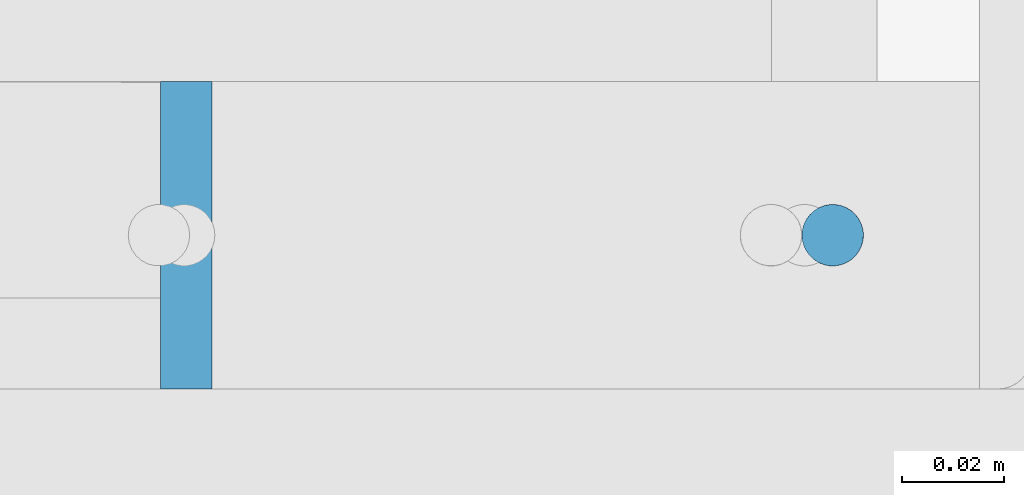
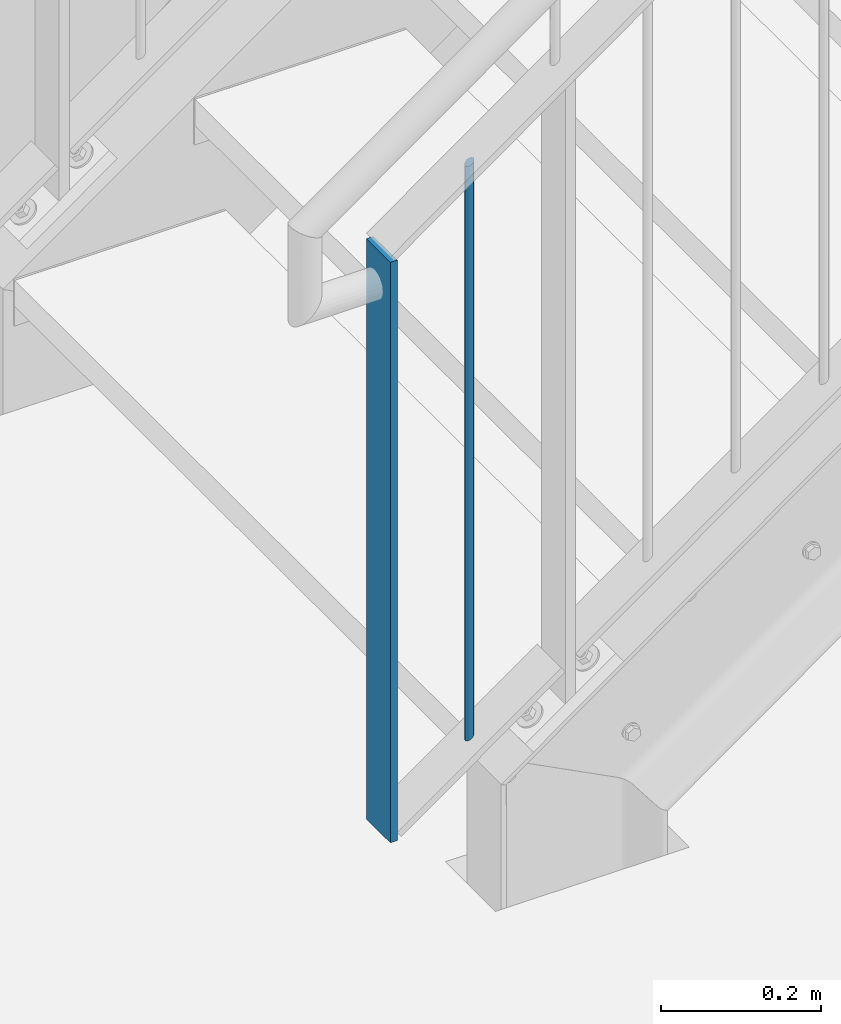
# One storey, part 21 of 831: 2 columns.
"""IFC2X3 building model written with IfcOpenShell, lengths in millimetres."""

from ifc_helpers import new_model, entity, si_unit, converted_unit, frame, origin, origin_with_axes, origin_2d, place, context, project, spatial, rectangle, circle, extrude, clip, halfspace, material, element, save


model = new_model("IFC2X3")

# Units and contexts
model_context = context("Model", 3, precision=1e-09, world=origin_with_axes())
ifc_project = project(units=[si_unit("LENGTHUNIT", "METRE", prefix="MILLI"), si_unit("AREAUNIT", "SQUARE_METRE"), si_unit("VOLUMEUNIT", "CUBIC_METRE"), converted_unit("PLANEANGLEUNIT", "DEGREE", entity("IfcPlaneAngleMeasure", 0.01745329), si_unit("PLANEANGLEUNIT", "RADIAN"), dimensions=[0, 0, 0, 0, 0, 0, 0])], contexts=[model_context])

# Site, building, storey
site_placement = place(None, origin_with_axes())
site = spatial("IfcSite", under=ifc_project, at=site_placement, Name="Site", CompositionType="ELEMENT")
building_placement = place(site_placement, origin_with_axes())
building = spatial("IfcBuilding", under=site, at=building_placement, Name="Struktur 1", CompositionType="ELEMENT")
storey_placement = place(building_placement, origin_with_axes())
storey = spatial("IfcBuildingStorey", under=building, at=storey_placement, Name="Default Storey", CompositionType="ELEMENT", Elevation=0.0)

# Columns
ifc_material = material(Name="S235JR")
column_1_placement = place(None, frame((5193.044323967, 6091.736971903, 1496.132045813), z_axis=(0.0, 0.0, 1.0), x_axis=(1.0, 0.0, 0.0)))
element("IfcColumn", 1, at=column_1_placement, inside=storey, material=ifc_material, Name="Railing_Picket_Stair#7", ObjectType="Railing_Picket_Stair#7", context=model_context, shape_type="Clipping", body=[
    clip(clip(extrude(circle(Radius=6.0, at=origin_2d()), origin(), (0.0, 0.0, -1.0), 896.604693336), halfspace(frame((-4148.212425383, -6091.736971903, -2963.709406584), z_axis=(0.579973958, 0.0, -0.814635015), x_axis=(0.0, 1.0, 0.0)), True)), halfspace(frame((-3734.439855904, -6091.736971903, -3544.896922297), z_axis=(-0.579973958, 0.0, 0.814635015), x_axis=(0.0, -1.0, 0.0)), True)),
])
column_2_placement = place(None, frame((5066.878639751, 6091.736971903, 1396.462546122), z_axis=(0.0, 0.0, 1.0), x_axis=(1.0, 0.0, 0.0)))
element("IfcColumn", 2, at=column_2_placement, inside=storey, material=ifc_material, Name="Railing_Post_Stair#0", ObjectType="Railing_Post_Stair#0", context=model_context, shape_type="SweptSolid", body=[
    extrude(rectangle(XDim=10.0, YDim=60.0, at=origin_2d()), origin(), (0.0, 0.0, -1.0), 885.057676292),
])

save(model, "model.ifc")
